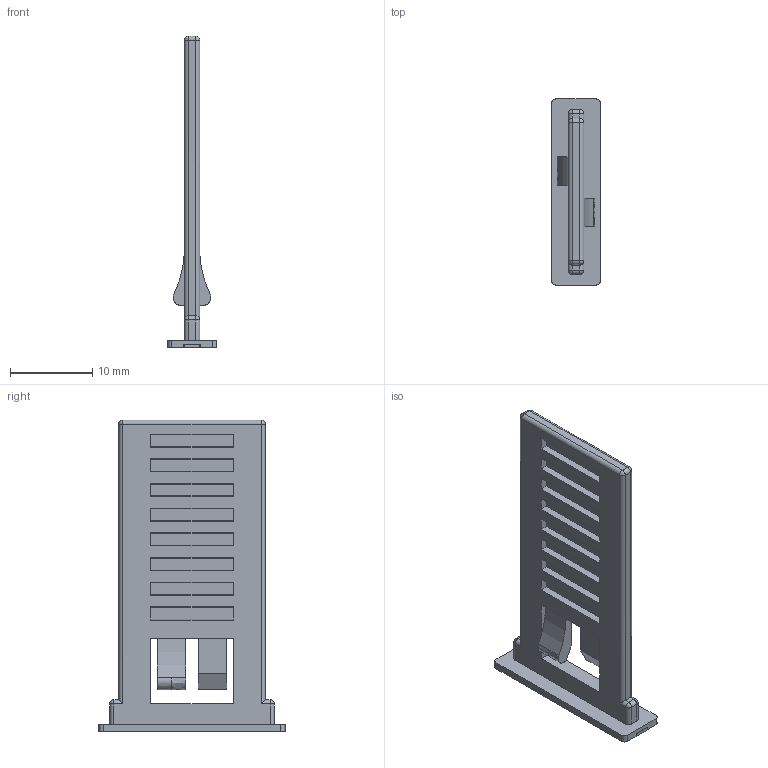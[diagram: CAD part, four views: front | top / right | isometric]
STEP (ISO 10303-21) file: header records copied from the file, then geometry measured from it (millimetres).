
FILE_DESCRIPTION((''),'2;1');
FILE_NAME('C:\Uebbing\PARAMETERKETTEN\KOLIBRI\Kol_50_065_5\Stecksteg PZG 50.stp','2011-11-02T13:10:00',('Uebbing'),(''),'Autodesk Inventor 10','Autodesk Inventor 10','');
FILE_SCHEMA(('AUTOMOTIVE_DESIGN { 1 0 10303 214 1 1 1 1 }'));
Length unit declared in the file: millimetre
Products named in the file (1): Stecksteg PZG 50
Bounding box: 5.9 x 22.61 x 37.9 mm (x, y, z)
Volume: 1076 mm3; surface area: 2069.7 mm2
Topology: 1 solids, 1 shells, 151 faces, 374 edges, 234 vertices
Faces by surface type: plane 65, bspline 51, cylinder 26, sphere 8, torus 1
Entity records: 4664 total; most frequent: CARTESIAN_POINT 1233, ORIENTED_EDGE 732, DIRECTION 610, EDGE_CURVE 366, VECTOR 304, LINE 304, VERTEX_POINT 234, EDGE_LOOP 170
